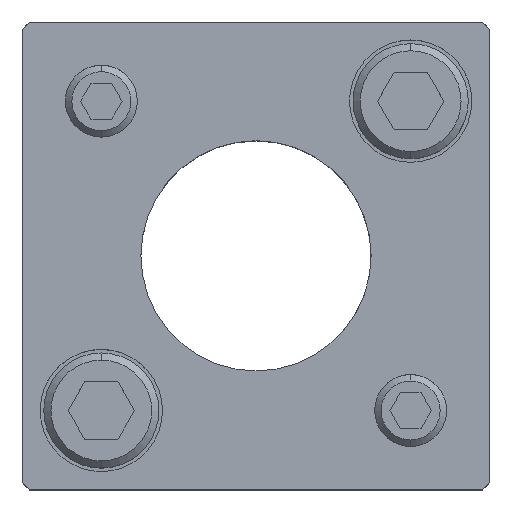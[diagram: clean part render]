
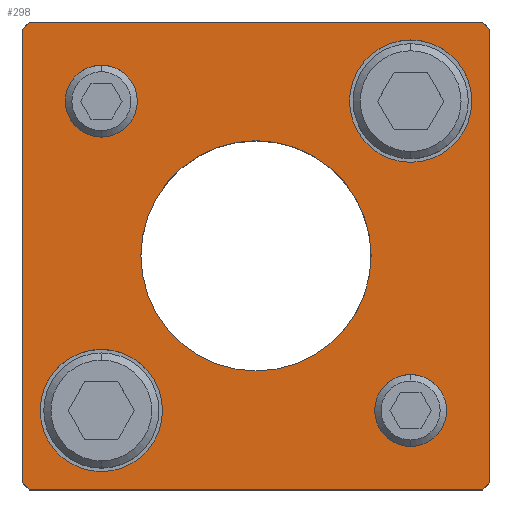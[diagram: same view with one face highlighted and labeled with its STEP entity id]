
A CAD part, top view. The second image highlights one B-rep face of the part: STEP entity #298.
In plain terms, the highlighted planar face has unit normal (0, 0, 1).
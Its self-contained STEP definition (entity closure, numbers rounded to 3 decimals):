
#155=PLANE('',#2455);
#222=FACE_BOUND('',#611,.T.);
#223=FACE_BOUND('',#612,.T.);
#224=FACE_BOUND('',#613,.T.);
#225=FACE_BOUND('',#614,.T.);
#226=FACE_BOUND('',#615,.T.);
#227=FACE_BOUND('',#616,.T.);
#298=ADVANCED_FACE('',(#222,#223,#224,#225,#226,#227),#155,.T.);
#611=EDGE_LOOP('',(#1291,#1292,#1293,#1294,#1295,#1296,#1297,#1298));
#612=EDGE_LOOP('',(#1299,#1300));
#613=EDGE_LOOP('',(#1301,#1302));
#614=EDGE_LOOP('',(#1303,#1304));
#615=EDGE_LOOP('',(#1305,#1306));
#616=EDGE_LOOP('',(#1307,#1308));
#762=LINE('',#3573,#948);
#763=LINE('',#3576,#949);
#764=LINE('',#3578,#950);
#765=LINE('',#3580,#951);
#766=LINE('',#3582,#952);
#767=LINE('',#3584,#953);
#768=LINE('',#3586,#954);
#769=LINE('',#3588,#955);
#948=VECTOR('',#2859,1.);
#949=VECTOR('',#2860,1.);
#950=VECTOR('',#2861,1.);
#951=VECTOR('',#2862,1.);
#952=VECTOR('',#2863,1.);
#953=VECTOR('',#2864,1.);
#954=VECTOR('',#2865,1.);
#955=VECTOR('',#2866,1.);
#1291=ORIENTED_EDGE('',*,*,#2022,.T.);
#1292=ORIENTED_EDGE('',*,*,#2023,.T.);
#1293=ORIENTED_EDGE('',*,*,#2024,.T.);
#1294=ORIENTED_EDGE('',*,*,#2025,.T.);
#1295=ORIENTED_EDGE('',*,*,#2026,.T.);
#1296=ORIENTED_EDGE('',*,*,#2027,.T.);
#1297=ORIENTED_EDGE('',*,*,#2028,.T.);
#1298=ORIENTED_EDGE('',*,*,#2029,.T.);
#1299=ORIENTED_EDGE('',*,*,#2030,.F.);
#1300=ORIENTED_EDGE('',*,*,#2031,.F.);
#1301=ORIENTED_EDGE('',*,*,#2032,.F.);
#1302=ORIENTED_EDGE('',*,*,#2033,.F.);
#1303=ORIENTED_EDGE('',*,*,#2008,.F.);
#1304=ORIENTED_EDGE('',*,*,#2004,.F.);
#1305=ORIENTED_EDGE('',*,*,#2002,.F.);
#1306=ORIENTED_EDGE('',*,*,#1998,.F.);
#1307=ORIENTED_EDGE('',*,*,#2034,.T.);
#1308=ORIENTED_EDGE('',*,*,#2035,.T.);
#1769=VERTEX_POINT('',#3524);
#1770=VERTEX_POINT('',#3525);
#1773=VERTEX_POINT('',#3537);
#1774=VERTEX_POINT('',#3538);
#1785=VERTEX_POINT('',#3574);
#1786=VERTEX_POINT('',#3575);
#1787=VERTEX_POINT('',#3577);
#1788=VERTEX_POINT('',#3579);
#1789=VERTEX_POINT('',#3581);
#1790=VERTEX_POINT('',#3583);
#1791=VERTEX_POINT('',#3585);
#1792=VERTEX_POINT('',#3587);
#1793=VERTEX_POINT('',#3590);
#1794=VERTEX_POINT('',#3591);
#1795=VERTEX_POINT('',#3594);
#1796=VERTEX_POINT('',#3595);
#1797=VERTEX_POINT('',#3598);
#1798=VERTEX_POINT('',#3599);
#1998=EDGE_CURVE('',#1769,#1770,#2267,.T.);
#2002=EDGE_CURVE('',#1770,#1769,#2269,.T.);
#2004=EDGE_CURVE('',#1773,#1774,#2271,.T.);
#2008=EDGE_CURVE('',#1774,#1773,#2273,.T.);
#2022=EDGE_CURVE('',#1785,#1786,#762,.T.);
#2023=EDGE_CURVE('',#1786,#1787,#763,.T.);
#2024=EDGE_CURVE('',#1787,#1788,#764,.T.);
#2025=EDGE_CURVE('',#1788,#1789,#765,.T.);
#2026=EDGE_CURVE('',#1789,#1790,#766,.T.);
#2027=EDGE_CURVE('',#1790,#1791,#767,.T.);
#2028=EDGE_CURVE('',#1791,#1792,#768,.T.);
#2029=EDGE_CURVE('',#1792,#1785,#769,.T.);
#2030=EDGE_CURVE('',#1793,#1794,#2283,.T.);
#2031=EDGE_CURVE('',#1794,#1793,#2284,.T.);
#2032=EDGE_CURVE('',#1795,#1796,#2285,.T.);
#2033=EDGE_CURVE('',#1796,#1795,#2286,.T.);
#2034=EDGE_CURVE('',#1797,#1798,#2287,.T.);
#2035=EDGE_CURVE('',#1798,#1797,#2288,.T.);
#2267=CIRCLE('',#2423,5.);
#2269=CIRCLE('',#2426,5.);
#2271=CIRCLE('',#2430,5.);
#2273=CIRCLE('',#2433,5.);
#2283=CIRCLE('',#2449,8.5);
#2284=CIRCLE('',#2450,8.5);
#2285=CIRCLE('',#2451,8.5);
#2286=CIRCLE('',#2452,8.5);
#2287=CIRCLE('',#2453,16.);
#2288=CIRCLE('',#2454,16.);
#2423=AXIS2_PLACEMENT_3D('',#3523,#2799,#2800);
#2426=AXIS2_PLACEMENT_3D('',#3532,#2807,#2808);
#2430=AXIS2_PLACEMENT_3D('',#3536,#2815,#2816);
#2433=AXIS2_PLACEMENT_3D('',#3545,#2823,#2824);
#2449=AXIS2_PLACEMENT_3D('',#3589,#2867,#2868);
#2450=AXIS2_PLACEMENT_3D('',#3592,#2869,#2870);
#2451=AXIS2_PLACEMENT_3D('',#3593,#2871,#2872);
#2452=AXIS2_PLACEMENT_3D('',#3596,#2873,#2874);
#2453=AXIS2_PLACEMENT_3D('',#3597,#2875,#2876);
#2454=AXIS2_PLACEMENT_3D('',#3600,#2877,#2878);
#2455=AXIS2_PLACEMENT_3D('',#3601,#2879,#2880);
#2799=DIRECTION('',(0.,0.,1.));
#2800=DIRECTION('',(-1.,0.,0.));
#2807=DIRECTION('',(0.,0.,1.));
#2808=DIRECTION('',(1.,0.,0.));
#2815=DIRECTION('',(0.,0.,1.));
#2816=DIRECTION('',(-1.,0.,0.));
#2823=DIRECTION('',(0.,0.,1.));
#2824=DIRECTION('',(1.,0.,0.));
#2859=DIRECTION('',(0.707,0.707,0.));
#2860=DIRECTION('',(0.,1.,0.));
#2861=DIRECTION('',(-0.707,0.707,0.));
#2862=DIRECTION('',(-1.,0.,0.));
#2863=DIRECTION('',(-0.707,-0.707,0.));
#2864=DIRECTION('',(0.,-1.,0.));
#2865=DIRECTION('',(0.707,-0.707,0.));
#2866=DIRECTION('',(1.,0.,0.));
#2867=DIRECTION('',(0.,0.,1.));
#2868=DIRECTION('',(1.,0.,0.));
#2869=DIRECTION('',(0.,0.,1.));
#2870=DIRECTION('',(-1.,0.,0.));
#2871=DIRECTION('',(0.,0.,1.));
#2872=DIRECTION('',(1.,0.,0.));
#2873=DIRECTION('',(0.,0.,1.));
#2874=DIRECTION('',(-1.,0.,0.));
#2875=DIRECTION('',(0.,0.,-1.));
#2876=DIRECTION('',(-1.,0.,0.));
#2877=DIRECTION('',(0.,0.,-1.));
#2878=DIRECTION('',(1.,0.,0.));
#2879=DIRECTION('',(0.,0.,1.));
#2880=DIRECTION('',(-1.,0.,0.));
#3523=CARTESIAN_POINT('',(21.5,-21.5,30.));
#3524=CARTESIAN_POINT('',(21.5,-26.5,30.));
#3525=CARTESIAN_POINT('',(21.5,-16.5,30.));
#3532=CARTESIAN_POINT('',(21.5,-21.5,30.));
#3536=CARTESIAN_POINT('',(-21.5,21.5,30.));
#3537=CARTESIAN_POINT('',(-21.5,16.5,30.));
#3538=CARTESIAN_POINT('',(-21.5,26.5,30.));
#3545=CARTESIAN_POINT('',(-21.5,21.5,30.));
#3573=CARTESIAN_POINT('',(31.5,-32.5,30.));
#3574=CARTESIAN_POINT('',(31.5,-32.5,30.));
#3575=CARTESIAN_POINT('',(32.5,-31.5,30.));
#3576=CARTESIAN_POINT('',(32.5,31.5,30.));
#3577=CARTESIAN_POINT('',(32.5,31.5,30.));
#3578=CARTESIAN_POINT('',(32.5,31.5,30.));
#3579=CARTESIAN_POINT('',(31.5,32.5,30.));
#3580=CARTESIAN_POINT('',(-31.5,32.5,30.));
#3581=CARTESIAN_POINT('',(-31.5,32.5,30.));
#3582=CARTESIAN_POINT('',(-31.5,32.5,30.));
#3583=CARTESIAN_POINT('',(-32.5,31.5,30.));
#3584=CARTESIAN_POINT('',(-32.5,31.5,30.));
#3585=CARTESIAN_POINT('',(-32.5,-31.5,30.));
#3586=CARTESIAN_POINT('',(-32.5,-31.5,30.));
#3587=CARTESIAN_POINT('',(-31.5,-32.5,30.));
#3588=CARTESIAN_POINT('',(-31.5,-32.5,30.));
#3589=CARTESIAN_POINT('',(21.5,21.5,30.));
#3590=CARTESIAN_POINT('',(21.5,30.,30.));
#3591=CARTESIAN_POINT('',(21.5,13.,30.));
#3592=CARTESIAN_POINT('',(21.5,21.5,30.));
#3593=CARTESIAN_POINT('',(-21.5,-21.5,30.));
#3594=CARTESIAN_POINT('',(-21.5,-13.,30.));
#3595=CARTESIAN_POINT('',(-21.5,-30.,30.));
#3596=CARTESIAN_POINT('',(-21.5,-21.5,30.));
#3597=CARTESIAN_POINT('',(0.,0.,30.));
#3598=CARTESIAN_POINT('',(0.,16.,30.));
#3599=CARTESIAN_POINT('',(0.,-16.,30.));
#3600=CARTESIAN_POINT('',(0.,0.,30.));
#3601=CARTESIAN_POINT('',(31.5,-32.5,30.));
